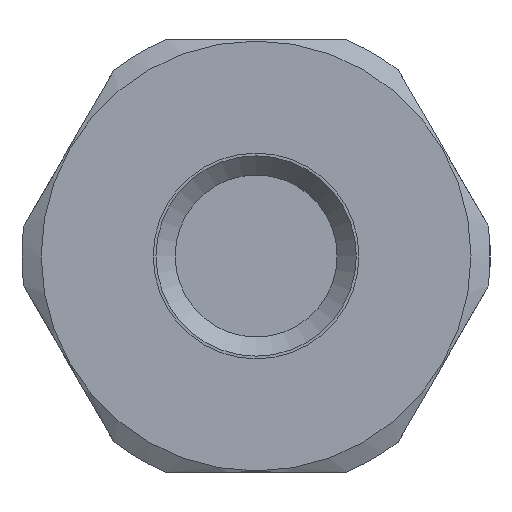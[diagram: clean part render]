
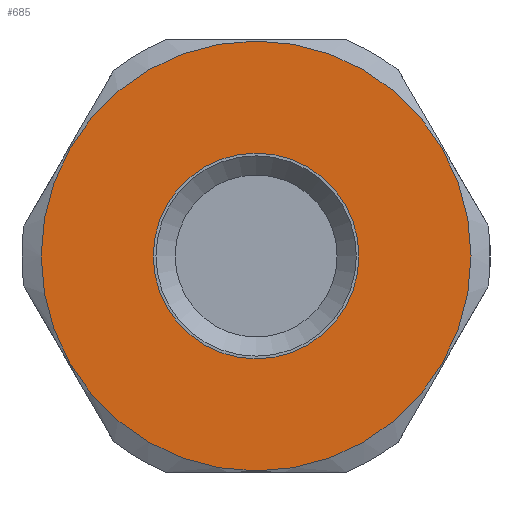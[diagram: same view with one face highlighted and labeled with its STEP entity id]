
A CAD part, front view. The second image highlights one B-rep face of the part: STEP entity #685.
In plain terms, the highlighted planar face has unit normal (0, -1, 0).
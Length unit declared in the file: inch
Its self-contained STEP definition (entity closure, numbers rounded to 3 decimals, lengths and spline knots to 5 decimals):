
#54=FACE_BOUND('',#106,.T.);
#57=PLANE('',#746);
#69=FACE_OUTER_BOUND('',#105,.T.);
#105=EDGE_LOOP('',(#432,#433));
#106=EDGE_LOOP('',(#434,#435));
#187=CIRCLE('',#747,0.28);
#188=CIRCLE('',#748,0.28);
#189=CIRCLE('',#749,0.134);
#190=CIRCLE('',#750,0.134);
#249=VERTEX_POINT('',#1069);
#250=VERTEX_POINT('',#1070);
#251=VERTEX_POINT('',#1073);
#252=VERTEX_POINT('',#1074);
#324=EDGE_CURVE('',#249,#250,#187,.T.);
#325=EDGE_CURVE('',#250,#249,#188,.T.);
#326=EDGE_CURVE('',#251,#252,#189,.T.);
#327=EDGE_CURVE('',#252,#251,#190,.T.);
#432=ORIENTED_EDGE('',*,*,#324,.T.);
#433=ORIENTED_EDGE('',*,*,#325,.T.);
#434=ORIENTED_EDGE('',*,*,#326,.T.);
#435=ORIENTED_EDGE('',*,*,#327,.T.);
#685=ADVANCED_FACE('',(#69,#54),#57,.T.);
#746=AXIS2_PLACEMENT_3D('',#1068,#855,#856);
#747=AXIS2_PLACEMENT_3D('',#1071,#857,#858);
#748=AXIS2_PLACEMENT_3D('',#1072,#859,#860);
#749=AXIS2_PLACEMENT_3D('',#1075,#861,#862);
#750=AXIS2_PLACEMENT_3D('',#1076,#863,#864);
#855=DIRECTION('center_axis',(0.,-1.,0.));
#856=DIRECTION('ref_axis',(0.,0.,
-1.));
#857=DIRECTION('center_axis',(0.,-1.,0.));
#858=DIRECTION('ref_axis',(1.,0.,0.));
#859=DIRECTION('center_axis',(0.,-1.,0.));
#860=DIRECTION('ref_axis',(1.,0.,0.));
#861=DIRECTION('center_axis',(0.,1.,0.));
#862=DIRECTION('ref_axis',(1.,0.,0.));
#863=DIRECTION('center_axis',(0.,1.,0.));
#864=DIRECTION('ref_axis',(1.,0.,0.));
#1068=CARTESIAN_POINT('Origin',(0.1525,-1.2105,0.));
#1069=CARTESIAN_POINT('',(0.28,-1.2105,0.));
#1070=CARTESIAN_POINT('',(-0.28,-1.2105,0.));
#1071=CARTESIAN_POINT('Origin',(0.,-1.2105,0.));
#1072=CARTESIAN_POINT('Origin',(0.,-1.2105,0.));
#1073=CARTESIAN_POINT('',(0.134,-1.2105,0.));
#1074=CARTESIAN_POINT('',(-0.134,-1.2105,0.));
#1075=CARTESIAN_POINT('Origin',(0.,-1.2105,0.));
#1076=CARTESIAN_POINT('Origin',(0.,-1.2105,0.));
